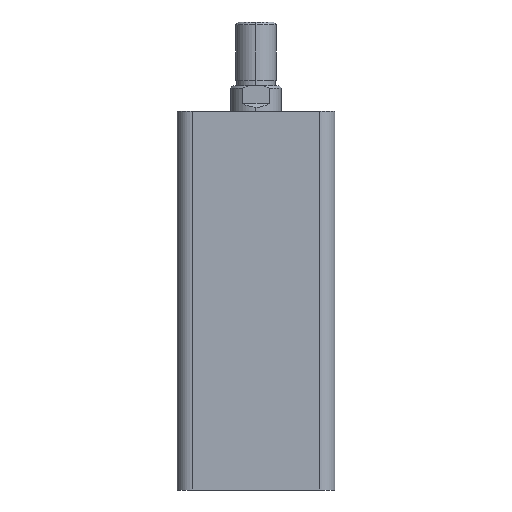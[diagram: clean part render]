
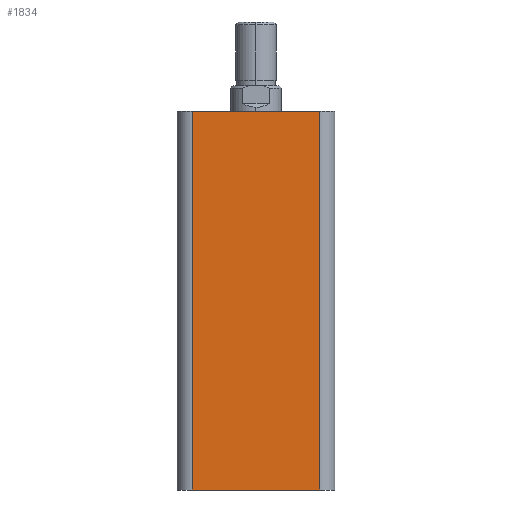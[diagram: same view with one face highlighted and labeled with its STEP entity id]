
A CAD part, left-side view. The second image highlights one B-rep face of the part: STEP entity #1834.
In plain terms, the highlighted planar face has unit normal (-1, 0, 0).
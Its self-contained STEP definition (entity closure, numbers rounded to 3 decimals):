
#122 = EDGE_CURVE ( 'NONE', #4561, #875, #716, .T. ) ;
#188 = FACE_OUTER_BOUND ( 'NONE', #1888, .T. ) ;
#396 = LINE ( 'NONE', #2075, #400 ) ;
#400 = VECTOR ( 'NONE', #2073, 1000. ) ;
#410 = LINE ( 'NONE', #2096, #413 ) ;
#412 = LINE ( 'NONE', #2098, #415 ) ;
#413 = VECTOR ( 'NONE', #2097, 1000. ) ;
#415 = VECTOR ( 'NONE', #2099, 1000. ) ;
#716 = LINE ( 'NONE', #2749, #718 ) ;
#718 = VECTOR ( 'NONE', #2655, 1000. ) ;
#875 = VERTEX_POINT ( 'NONE', #3694 ) ;
#1470 = CARTESIAN_POINT ( 'NONE',  ( -31., 25., 0. ) ) ;
#1471 = CARTESIAN_POINT ( 'NONE',  ( -31., -25., 0. ) ) ;
#1834 = ADVANCED_FACE ( 'NONE', ( #188 ), #3589, .F. ) ;
#1888 = EDGE_LOOP ( 'NONE', ( #3737, #3738, #3739, #3740 ) ) ;
#2073 = DIRECTION ( 'NONE',  ( 0., -1., 0. ) ) ;
#2075 = CARTESIAN_POINT ( 'NONE',  ( -31., 31., 0. ) ) ;
#2096 = CARTESIAN_POINT ( 'NONE',  ( -31., -25., 149. ) ) ;
#2097 = DIRECTION ( 'NONE',  ( 0., 0., 1. ) ) ;
#2098 = CARTESIAN_POINT ( 'NONE',  ( -31., 25., 149. ) ) ;
#2099 = DIRECTION ( 'NONE',  ( 0., 0., -1. ) ) ;
#2592 = EDGE_CURVE ( 'NONE', #4512, #4514, #396, .T. ) ;
#2600 = EDGE_CURVE ( 'NONE', #4514, #875, #410, .T. ) ;
#2601 = EDGE_CURVE ( 'NONE', #4561, #4512, #412, .T. ) ;
#2655 = DIRECTION ( 'NONE',  ( 0., -1., 0. ) ) ;
#2749 = CARTESIAN_POINT ( 'NONE',  ( -31., 31., 149. ) ) ;
#3581 = DIRECTION ( 'NONE',  ( 0., 0., -1. ) ) ;
#3583 = DIRECTION ( 'NONE',  ( 1., 0., 0. ) ) ;
#3589 = PLANE ( 'NONE',  #4922 ) ;
#3594 = CARTESIAN_POINT ( 'NONE',  ( -31., 31., 149. ) ) ;
#3694 = CARTESIAN_POINT ( 'NONE',  ( -31., -25., 149. ) ) ;
#3737 = ORIENTED_EDGE ( 'NONE', *, *, #2592, .T. ) ;
#3738 = ORIENTED_EDGE ( 'NONE', *, *, #2600, .T. ) ;
#3739 = ORIENTED_EDGE ( 'NONE', *, *, #122, .F. ) ;
#3740 = ORIENTED_EDGE ( 'NONE', *, *, #2601, .T. ) ;
#3824 = CARTESIAN_POINT ( 'NONE',  ( -31., 25., 149. ) ) ;
#4512 = VERTEX_POINT ( 'NONE', #1470 ) ;
#4514 = VERTEX_POINT ( 'NONE', #1471 ) ;
#4561 = VERTEX_POINT ( 'NONE', #3824 ) ;
#4922 = AXIS2_PLACEMENT_3D ( 'NONE', #3594, #3583, #3581 ) ;
